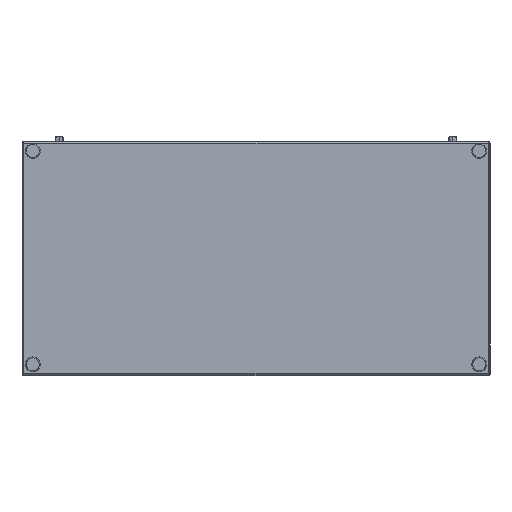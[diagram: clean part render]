
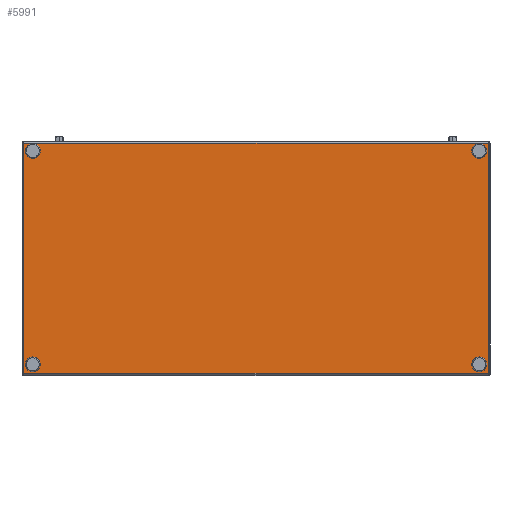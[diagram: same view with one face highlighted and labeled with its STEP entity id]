
A CAD part, front view. The second image highlights one B-rep face of the part: STEP entity #5991.
In plain terms, the highlighted planar face has unit normal (0, -1, 0).
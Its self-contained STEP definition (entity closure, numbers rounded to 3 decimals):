
#182 = AXIS2_PLACEMENT_3D ( 'NONE', #7816, #7817, #7818 ) ;
#297 = AXIS2_PLACEMENT_3D ( 'NONE', #8484, #8488, #8489 ) ;
#511 = EDGE_CURVE ( 'NONE', #3448, #3447, #12032, .T. ) ;
#517 = EDGE_CURVE ( 'NONE', #3464, #3457, #12025, .T. ) ;
#559 = EDGE_CURVE ( 'NONE', #3447, #3464, #12799, .T. ) ;
#584 = EDGE_CURVE ( 'NONE', #4062, #7402, #11402, .T. ) ;
#704 = EDGE_CURVE ( 'NONE', #3941, #3939, #5578, .T. ) ;
#854 = EDGE_CURVE ( 'NONE', #7331, #7436, #5634, .T. ) ;
#941 = EDGE_CURVE ( 'NONE', #7304, #7701, #5676, .T. ) ;
#1004 = EDGE_CURVE ( 'NONE', #3457, #3448, #20415, .T. ) ;
#1144 = DIRECTION ( 'NONE',  ( 0., 0., -1. ) ) ;
#1146 = DIRECTION ( 'NONE',  ( 0., -1., 0. ) ) ;
#1147 = CARTESIAN_POINT ( 'NONE',  ( -572.5, -162.5, -221.013 ) ) ;
#3447 = VERTEX_POINT ( 'NONE', #20098 ) ;
#3448 = VERTEX_POINT ( 'NONE', #20097 ) ;
#3457 = VERTEX_POINT ( 'NONE', #20091 ) ;
#3464 = VERTEX_POINT ( 'NONE', #20089 ) ;
#3939 = VERTEX_POINT ( 'NONE', #19994 ) ;
#3941 = VERTEX_POINT ( 'NONE', #19993 ) ;
#4062 = VERTEX_POINT ( 'NONE', #19862 ) ;
#5479 = CIRCLE ( 'NONE', #182, 4.555 ) ;
#5578 = CIRCLE ( 'NONE', #16531, 4.555 ) ;
#5634 = CIRCLE ( 'NONE', #18876, 4.555 ) ;
#5676 = CIRCLE ( 'NONE', #17196, 4.555 ) ;
#5744 = CIRCLE ( 'NONE', #18182, 4.555 ) ;
#5779 = CIRCLE ( 'NONE', #17543, 4.555 ) ;
#5780 = CIRCLE ( 'NONE', #297, 4.555 ) ;
#5951 = EDGE_CURVE ( 'NONE', #7436, #7331, #5779, .T. ) ;
#5991 = ADVANCED_FACE ( 'NONE', ( #17962, #18168, #16340, #16708, #16347 ), #19619, .F. ) ;
#6005 = EDGE_CURVE ( 'NONE', #7701, #7304, #5744, .T. ) ;
#6417 = EDGE_CURVE ( 'NONE', #7402, #4062, #5479, .T. ) ;
#6538 = EDGE_CURVE ( 'NONE', #3939, #3941, #5780, .T. ) ;
#7304 = VERTEX_POINT ( 'NONE', #8990 ) ;
#7331 = VERTEX_POINT ( 'NONE', #9004 ) ;
#7402 = VERTEX_POINT ( 'NONE', #9040 ) ;
#7436 = VERTEX_POINT ( 'NONE', #9055 ) ;
#7701 = VERTEX_POINT ( 'NONE', #9199 ) ;
#7816 = CARTESIAN_POINT ( 'NONE',  ( 572.5, -162.5, -221.013 ) ) ;
#7817 = DIRECTION ( 'NONE',  ( 0., -1., 0. ) ) ;
#7818 = DIRECTION ( 'NONE',  ( 0., 0., -1. ) ) ;
#8484 = CARTESIAN_POINT ( 'NONE',  ( -572.5, -162.5, -221.013 ) ) ;
#8488 = DIRECTION ( 'NONE',  ( 0., -1., 0. ) ) ;
#8489 = DIRECTION ( 'NONE',  ( 0., 0., -1. ) ) ;
#8990 = CARTESIAN_POINT ( 'NONE',  ( 572.5, -162.5, 331.043 ) ) ;
#9004 = CARTESIAN_POINT ( 'NONE',  ( -572.5, -162.5, 331.043 ) ) ;
#9040 = CARTESIAN_POINT ( 'NONE',  ( 572.5, -162.5, -225.568 ) ) ;
#9055 = CARTESIAN_POINT ( 'NONE',  ( -572.5, -162.5, 321.932 ) ) ;
#9199 = CARTESIAN_POINT ( 'NONE',  ( 572.5, -162.5, 321.932 ) ) ;
#11402 = CIRCLE ( 'NONE', #18704, 4.555 ) ;
#12025 = LINE ( 'NONE', #12661, #18436 ) ;
#12032 = LINE ( 'NONE', #12571, #18476 ) ;
#12074 = EDGE_LOOP ( 'NONE', ( #25110, #25374 ) ) ;
#12269 = DIRECTION ( 'NONE',  ( 0., 0., -1. ) ) ;
#12275 = DIRECTION ( 'NONE',  ( -1., 0., 0. ) ) ;
#12299 = CARTESIAN_POINT ( 'NONE',  ( 572.5, -162.5, -221.013 ) ) ;
#12303 = DIRECTION ( 'NONE',  ( 0., -1., 0. ) ) ;
#12307 = DIRECTION ( 'NONE',  ( 0., 0., -1. ) ) ;
#12321 = EDGE_LOOP ( 'NONE', ( #24726, #25133 ) ) ;
#12332 = CARTESIAN_POINT ( 'NONE',  ( 596., -162.5, 0. ) ) ;
#12520 = EDGE_LOOP ( 'NONE', ( #25453, #25413 ) ) ;
#12542 = EDGE_LOOP ( 'NONE', ( #24823, #25368 ) ) ;
#12571 = CARTESIAN_POINT ( 'NONE',  ( 597.5, -162.5, 346.487 ) ) ;
#12661 = CARTESIAN_POINT ( 'NONE',  ( 597.5, -162.5, -244.013 ) ) ;
#12707 = DIRECTION ( 'NONE',  ( 1., 0., 0. ) ) ;
#12799 = LINE ( 'NONE', #12332, #17682 ) ;
#13042 = EDGE_LOOP ( 'NONE', ( #24668, #24958, #24855, #25260 ) ) ;
#16340 = FACE_BOUND ( 'NONE', #12520, .T. ) ;
#16347 = FACE_OUTER_BOUND ( 'NONE', #13042, .T. ) ;
#16531 = AXIS2_PLACEMENT_3D ( 'NONE', #1147, #1146, #1144 ) ;
#16708 = FACE_BOUND ( 'NONE', #12321, .T. ) ;
#17196 = AXIS2_PLACEMENT_3D ( 'NONE', #23858, #24062, #24623 ) ;
#17543 = AXIS2_PLACEMENT_3D ( 'NONE', #19850, #20306, #20302 ) ;
#17682 = VECTOR ( 'NONE', #12269, 1000. ) ;
#17829 = VECTOR ( 'NONE', #20411, 1000. ) ;
#17868 = AXIS2_PLACEMENT_3D ( 'NONE', #19620, #19622, #19628 ) ;
#17962 = FACE_BOUND ( 'NONE', #12542, .T. ) ;
#18168 = FACE_BOUND ( 'NONE', #12074, .T. ) ;
#18182 = AXIS2_PLACEMENT_3D ( 'NONE', #19577, #19037, #19069 ) ;
#18436 = VECTOR ( 'NONE', #12275, 1000. ) ;
#18476 = VECTOR ( 'NONE', #12707, 1000. ) ;
#18704 = AXIS2_PLACEMENT_3D ( 'NONE', #12299, #12303, #12307 ) ;
#18876 = AXIS2_PLACEMENT_3D ( 'NONE', #24352, #24345, #24341 ) ;
#19037 = DIRECTION ( 'NONE',  ( 0., -1., 0. ) ) ;
#19069 = DIRECTION ( 'NONE',  ( 0., 0., -1. ) ) ;
#19577 = CARTESIAN_POINT ( 'NONE',  ( 572.5, -162.5, 326.487 ) ) ;
#19619 = PLANE ( 'NONE',  #17868 ) ;
#19620 = CARTESIAN_POINT ( 'NONE',  ( 597.5, -162.5, 0. ) ) ;
#19622 = DIRECTION ( 'NONE',  ( 0., 1., 0. ) ) ;
#19628 = DIRECTION ( 'NONE',  ( 0., 0., 1. ) ) ;
#19850 = CARTESIAN_POINT ( 'NONE',  ( -572.5, -162.5, 326.487 ) ) ;
#19862 = CARTESIAN_POINT ( 'NONE',  ( 572.5, -162.5, -216.457 ) ) ;
#19993 = CARTESIAN_POINT ( 'NONE',  ( -572.5, -162.5, -216.457 ) ) ;
#19994 = CARTESIAN_POINT ( 'NONE',  ( -572.5, -162.5, -225.568 ) ) ;
#20089 = CARTESIAN_POINT ( 'NONE',  ( 596., -162.5, -244.013 ) ) ;
#20091 = CARTESIAN_POINT ( 'NONE',  ( -596., -162.5, -244.013 ) ) ;
#20097 = CARTESIAN_POINT ( 'NONE',  ( -596., -162.5, 346.487 ) ) ;
#20098 = CARTESIAN_POINT ( 'NONE',  ( 596., -162.5, 346.487 ) ) ;
#20302 = DIRECTION ( 'NONE',  ( 0., 0., -1. ) ) ;
#20306 = DIRECTION ( 'NONE',  ( 0., -1., 0. ) ) ;
#20411 = DIRECTION ( 'NONE',  ( 0., 0., 1. ) ) ;
#20414 = CARTESIAN_POINT ( 'NONE',  ( -596., -162.5, 0. ) ) ;
#20415 = LINE ( 'NONE', #20414, #17829 ) ;
#23858 = CARTESIAN_POINT ( 'NONE',  ( 572.5, -162.5, 326.487 ) ) ;
#24062 = DIRECTION ( 'NONE',  ( 0., -1., 0. ) ) ;
#24341 = DIRECTION ( 'NONE',  ( 0., 0., -1. ) ) ;
#24345 = DIRECTION ( 'NONE',  ( 0., -1., 0. ) ) ;
#24352 = CARTESIAN_POINT ( 'NONE',  ( -572.5, -162.5, 326.487 ) ) ;
#24623 = DIRECTION ( 'NONE',  ( 0., 0., -1. ) ) ;
#24668 = ORIENTED_EDGE ( 'NONE', *, *, #1004, .F. ) ;
#24726 = ORIENTED_EDGE ( 'NONE', *, *, #6005, .F. ) ;
#24823 = ORIENTED_EDGE ( 'NONE', *, *, #6538, .F. ) ;
#24855 = ORIENTED_EDGE ( 'NONE', *, *, #559, .F. ) ;
#24958 = ORIENTED_EDGE ( 'NONE', *, *, #517, .F. ) ;
#25110 = ORIENTED_EDGE ( 'NONE', *, *, #5951, .F. ) ;
#25133 = ORIENTED_EDGE ( 'NONE', *, *, #941, .F. ) ;
#25260 = ORIENTED_EDGE ( 'NONE', *, *, #511, .F. ) ;
#25368 = ORIENTED_EDGE ( 'NONE', *, *, #704, .F. ) ;
#25374 = ORIENTED_EDGE ( 'NONE', *, *, #854, .F. ) ;
#25413 = ORIENTED_EDGE ( 'NONE', *, *, #584, .F. ) ;
#25453 = ORIENTED_EDGE ( 'NONE', *, *, #6417, .F. ) ;
